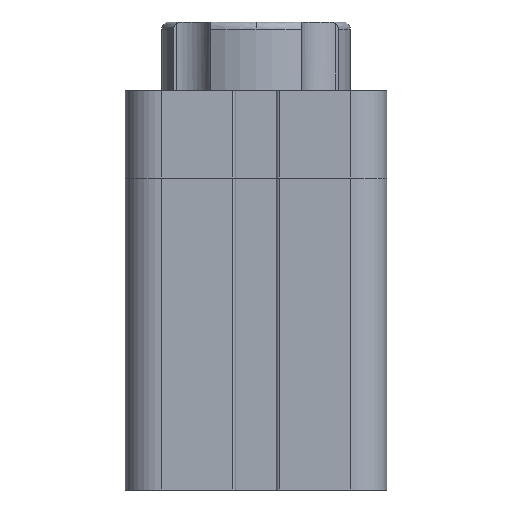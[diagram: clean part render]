
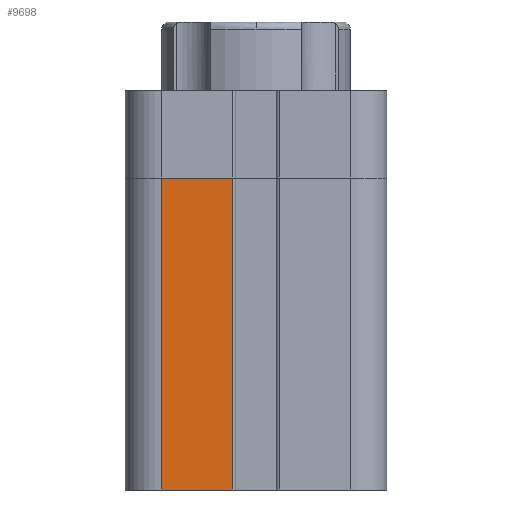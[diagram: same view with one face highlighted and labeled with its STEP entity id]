
A CAD part, left-side view. The second image highlights one B-rep face of the part: STEP entity #9698.
In plain terms, the highlighted planar face has unit normal (-1, 0, 0).
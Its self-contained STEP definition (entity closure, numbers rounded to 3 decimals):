
#786 = ORIENTED_EDGE ( 'NONE', *, *, #11304, .T. ) ;
#1169 = LINE ( 'NONE', #8477, #10026 ) ;
#1396 = CARTESIAN_POINT ( 'NONE',  ( -18., -18., 43. ) ) ;
#1808 = DIRECTION ( 'NONE',  ( 0., 0., 1. ) ) ;
#2100 = DIRECTION ( 'NONE',  ( 1., 0., 0. ) ) ;
#2104 = VECTOR ( 'NONE', #9861, 1000. ) ;
#2129 = CARTESIAN_POINT ( 'NONE',  ( -18., 3.301, 43. ) ) ;
#3080 = EDGE_CURVE ( 'NONE', #8902, #10735, #1169, .T. ) ;
#3228 = DIRECTION ( 'NONE',  ( 0., 0., -1. ) ) ;
#4033 = ORIENTED_EDGE ( 'NONE', *, *, #3080, .F. ) ;
#4198 = VERTEX_POINT ( 'NONE', #2129 ) ;
#5131 = ORIENTED_EDGE ( 'NONE', *, *, #6317, .F. ) ;
#5437 = LINE ( 'NONE', #10959, #2104 ) ;
#5878 = DIRECTION ( 'NONE',  ( 0., -1., 0. ) ) ;
#6317 = EDGE_CURVE ( 'NONE', #4198, #13716, #12115, .T. ) ;
#7615 = CARTESIAN_POINT ( 'NONE',  ( -18., 18., 43. ) ) ;
#7691 = AXIS2_PLACEMENT_3D ( 'NONE', #7615, #2100, #3228 ) ;
#7786 = DIRECTION ( 'NONE',  ( 0., 0., -1. ) ) ;
#8011 = ORIENTED_EDGE ( 'NONE', *, *, #10763, .F. ) ;
#8477 = CARTESIAN_POINT ( 'NONE',  ( -18., 13., 43. ) ) ;
#8902 = VERTEX_POINT ( 'NONE', #11418 ) ;
#9302 = CARTESIAN_POINT ( 'NONE',  ( -18., 3.301, 0. ) ) ;
#9698 = ADVANCED_FACE ( 'NONE', ( #12503 ), #9868, .F. ) ;
#9861 = DIRECTION ( 'NONE',  ( 0., -1., 0. ) ) ;
#9868 = PLANE ( 'NONE',  #7691 ) ;
#10026 = VECTOR ( 'NONE', #1808, 1000. ) ;
#10100 = CARTESIAN_POINT ( 'NONE',  ( -18., 3.301, 43. ) ) ;
#10726 = VECTOR ( 'NONE', #7786, 1000. ) ;
#10735 = VERTEX_POINT ( 'NONE', #13672 ) ;
#10763 = EDGE_CURVE ( 'NONE', #10735, #4198, #12893, .T. ) ;
#10820 = VECTOR ( 'NONE', #5878, 1000. ) ;
#10959 = CARTESIAN_POINT ( 'NONE',  ( -18., -18., 0. ) ) ;
#11304 = EDGE_CURVE ( 'NONE', #8902, #13716, #5437, .T. ) ;
#11418 = CARTESIAN_POINT ( 'NONE',  ( -18., 13., 0. ) ) ;
#12115 = LINE ( 'NONE', #10100, #10726 ) ;
#12503 = FACE_OUTER_BOUND ( 'NONE', #14267, .T. ) ;
#12893 = LINE ( 'NONE', #1396, #10820 ) ;
#13672 = CARTESIAN_POINT ( 'NONE',  ( -18., 13., 43. ) ) ;
#13716 = VERTEX_POINT ( 'NONE', #9302 ) ;
#14267 = EDGE_LOOP ( 'NONE', ( #5131, #8011, #4033, #786 ) ) ;
